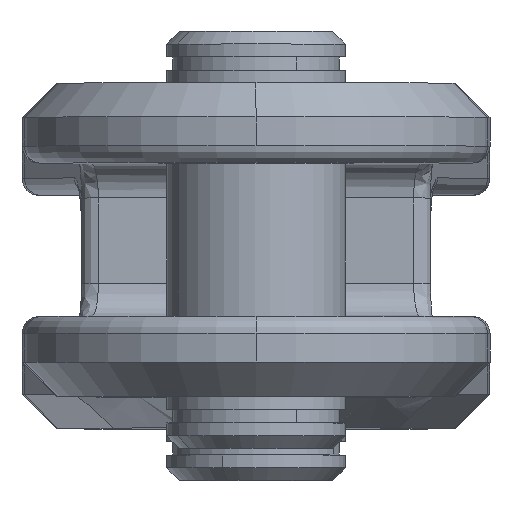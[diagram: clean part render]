
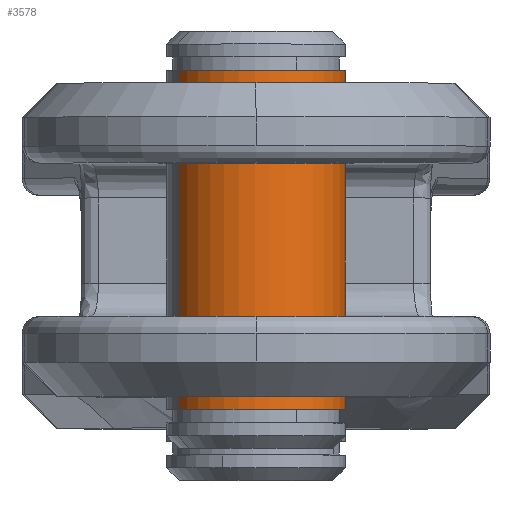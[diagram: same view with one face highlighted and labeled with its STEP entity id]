
A CAD part, top view. The second image highlights one B-rep face of the part: STEP entity #3578.
In plain terms, the highlighted cylindrical face has radius 10.5 mm (diameter 21 mm), a partial arc.
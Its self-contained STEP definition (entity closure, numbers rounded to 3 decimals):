
#134 = DIRECTION ( 'NONE',  ( -1., 0., 0. ) ) ;
#174 = AXIS2_PLACEMENT_3D ( 'NONE', #5570, #4699, #2960 ) ;
#180 = CARTESIAN_POINT ( 'NONE',  ( 44.4, 0., 10.5 ) ) ;
#251 = AXIS2_PLACEMENT_3D ( 'NONE', #2511, #8494, #3377 ) ;
#436 = CYLINDRICAL_SURFACE ( 'NONE', #174, 10.5 ) ;
#979 = FACE_OUTER_BOUND ( 'NONE', #3171, .T. ) ;
#1053 = VERTEX_POINT ( 'NONE', #5450 ) ;
#1393 = DIRECTION ( 'NONE',  ( -1., 0., 0. ) ) ;
#1518 = ORIENTED_EDGE ( 'NONE', *, *, #3399, .F. ) ;
#1994 = CARTESIAN_POINT ( 'NONE',  ( 4.6, 0., 10.5 ) ) ;
#2097 = AXIS2_PLACEMENT_3D ( 'NONE', #5276, #134, #6127 ) ;
#2281 = LINE ( 'NONE', #4382, #8842 ) ;
#2511 = CARTESIAN_POINT ( 'NONE',  ( 44.4, 0., 0. ) ) ;
#2691 = VERTEX_POINT ( 'NONE', #180 ) ;
#2759 = ORIENTED_EDGE ( 'NONE', *, *, #3709, .T. ) ;
#2960 = DIRECTION ( 'NONE',  ( 0., 0., 1. ) ) ;
#3171 = EDGE_LOOP ( 'NONE', ( #8998, #11031, #2759, #1518 ) ) ;
#3377 = DIRECTION ( 'NONE',  ( 0., -1., 0. ) ) ;
#3399 = EDGE_CURVE ( 'NONE', #4583, #9804, #4080, .T. ) ;
#3578 = ADVANCED_FACE ( 'NONE', ( #979 ), #436, .T. ) ;
#3709 = EDGE_CURVE ( 'NONE', #2691, #9804, #4745, .T. ) ;
#4080 = CIRCLE ( 'NONE', #2097, 10.5 ) ;
#4204 = VECTOR ( 'NONE', #1393, 1000. ) ;
#4382 = CARTESIAN_POINT ( 'NONE',  ( 0., 0., -10.5 ) ) ;
#4583 = VERTEX_POINT ( 'NONE', #10437 ) ;
#4699 = DIRECTION ( 'NONE',  ( -1., 0., 0. ) ) ;
#4745 = LINE ( 'NONE', #7381, #4204 ) ;
#5276 = CARTESIAN_POINT ( 'NONE',  ( 4.6, 0., 0. ) ) ;
#5450 = CARTESIAN_POINT ( 'NONE',  ( 44.4, 0., -10.5 ) ) ;
#5487 = EDGE_CURVE ( 'NONE', #1053, #2691, #10321, .T. ) ;
#5570 = CARTESIAN_POINT ( 'NONE',  ( 0., 0., 0. ) ) ;
#6127 = DIRECTION ( 'NONE',  ( 0., -1., 0. ) ) ;
#7381 = CARTESIAN_POINT ( 'NONE',  ( 0., 0., 10.5 ) ) ;
#7770 = DIRECTION ( 'NONE',  ( -1., 0., 0. ) ) ;
#8364 = EDGE_CURVE ( 'NONE', #1053, #4583, #2281, .T. ) ;
#8494 = DIRECTION ( 'NONE',  ( -1., 0., 0. ) ) ;
#8842 = VECTOR ( 'NONE', #7770, 1000. ) ;
#8998 = ORIENTED_EDGE ( 'NONE', *, *, #8364, .F. ) ;
#9804 = VERTEX_POINT ( 'NONE', #1994 ) ;
#10321 = CIRCLE ( 'NONE', #251, 10.5 ) ;
#10437 = CARTESIAN_POINT ( 'NONE',  ( 4.6, 0., -10.5 ) ) ;
#11031 = ORIENTED_EDGE ( 'NONE', *, *, #5487, .T. ) ;
